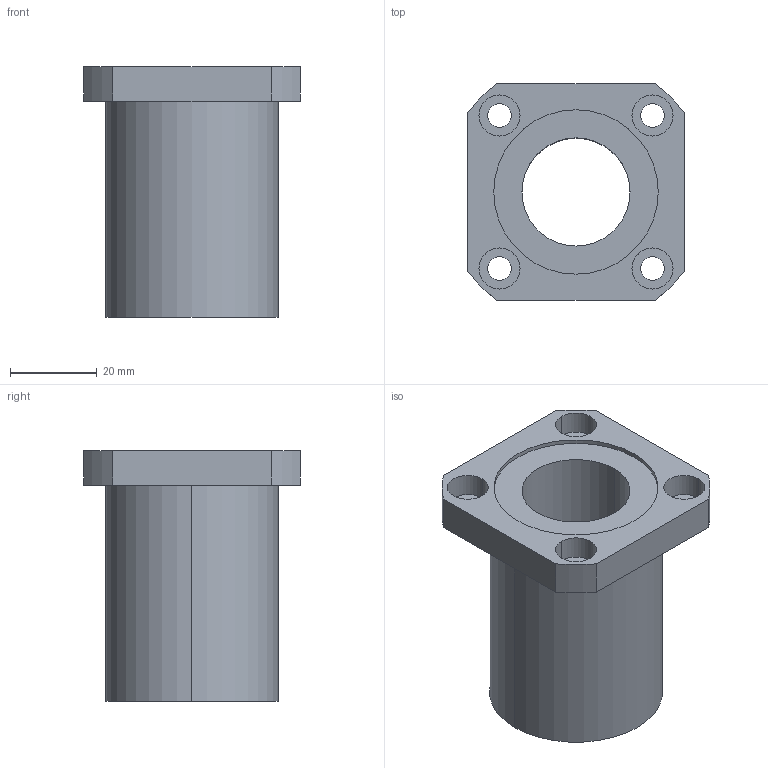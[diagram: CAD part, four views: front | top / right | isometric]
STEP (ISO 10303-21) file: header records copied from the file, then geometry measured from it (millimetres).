
FILE_DESCRIPTION((''),'2;1');
FILE_NAME('C:\Documents and Settings\ｿﾀﾀ蠑ｷ1\ｹﾙﾅﾁ ﾈｭｸ饅\ｺﾎﾇｰﾆﾄﾀﾏ\ﾁｦﾇｰ\LMEK__UU\LMEK25UU.stp','2005-06-15T10:58:45',('ｿﾀﾀ蠑ｷ1'),(''),'Autodesk Inventor 9','Autodesk Inventor 9','');
FILE_SCHEMA(('AUTOMOTIVE_DESIGN { 1 0 10303 214 1 1 1 1 }'));
Length unit declared in the file: millimetre
Products named in the file (1): LMEK__(L)
Bounding box: 50 x 50 x 58 mm (x, y, z)
Volume: 50657.7 mm3; surface area: 16889 mm2
Topology: 1 solids, 1 shells, 41 faces, 96 edges, 64 vertices
Faces by surface type: bspline 20, cylinder 12, plane 9
Entity records: 1457 total; most frequent: CARTESIAN_POINT 486, DIRECTION 196, ORIENTED_EDGE 192, EDGE_CURVE 96, AXIS2_PLACEMENT_3D 78, VERTEX_POINT 64, EDGE_LOOP 58, CIRCLE 56
